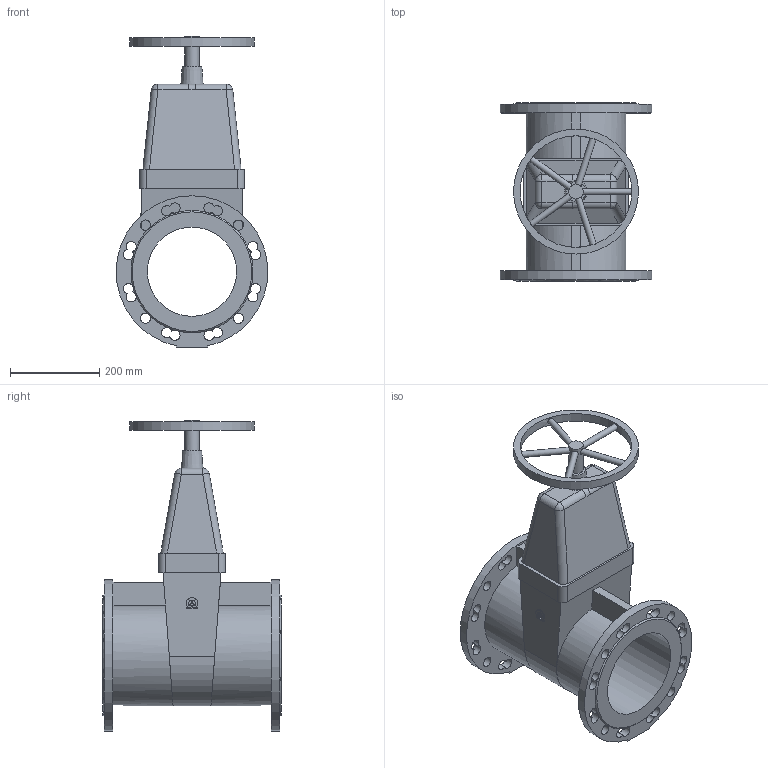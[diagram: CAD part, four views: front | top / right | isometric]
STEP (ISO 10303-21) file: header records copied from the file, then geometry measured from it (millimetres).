
FILE_DESCRIPTION(('STEP AP203'), '1');
FILE_NAME('Çàäâèæêà 47GV DN200 PN10_PN16_L400 ñ ìàõîâèêîì', '', ('UNSPECIFIED'), ('UNSPECIFIED'), 'ASCON STEP Converter 1.6', 'ASCON Math Kernel', '');
FILE_SCHEMA(('CONFIG_CONTROL_DESIGN'));
Length unit declared in the file: millimetre
Bounding box: 339.95 x 400 x 697 mm (x, y, z)
Volume: 14058067.3 mm3; surface area: 1114033.8 mm2
Topology: 1 solids, 1 shells, 162 faces, 486 edges, 307 vertices
Faces by surface type: plane 77, cylinder 76, bspline 6, cone 3
Full cylindrical faces by diameter (mm): 14 x5, 23 x8, 32 x1, 200 x1, 250 x1, 280 x1
Entity records: 10091 total; most frequent: CARTESIAN_POINT 4332, DIRECTION 962, ORIENTED_EDGE 912, EDGE_CURVE 456, AXIS2_PLACEMENT_3D 403, VERTEX_POINT 304, CIRCLE 246, EDGE_LOOP 230
